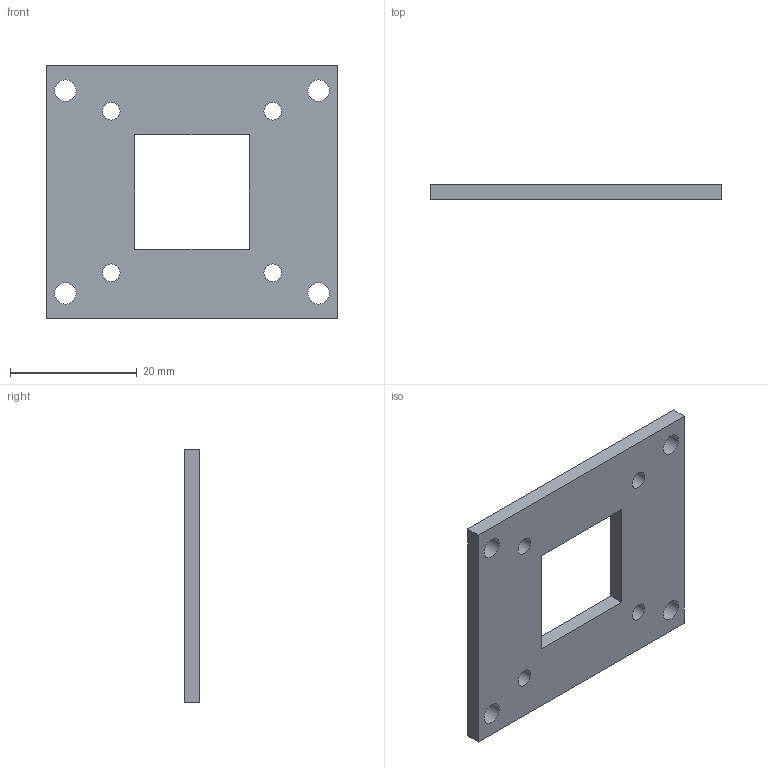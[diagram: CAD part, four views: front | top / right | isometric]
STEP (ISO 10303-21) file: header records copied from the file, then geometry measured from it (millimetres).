
FILE_DESCRIPTION(('Open CASCADE Model'),'2;1');
FILE_NAME('Open CASCADE Shape Model','2026-09-12T16:48:07',('Author'),( 'Open CASCADE'),'Open CASCADE STEP processor 7.9','Open CASCADE 7.9' ,'Unknown');
FILE_SCHEMA(('AUTOMOTIVE_DESIGN { 1 0 10303 214 1 1 1 1 }'));
Length unit declared in the file: millimetre
Products named in the file (1): Open CASCADE STEP translator 7.9 21
Bounding box: 46 x 2.4 x 40 mm (x, y, z)
Volume: 3492.1 mm3; surface area: 3682.7 mm2
Topology: 1 solids, 1 shells, 18 faces, 48 edges, 32 vertices
Faces by surface type: plane 10, cylinder 8
Full cylindrical faces by diameter (mm): 2.8 x4, 3.4 x4
Entity records: 1238 total; most frequent: DIRECTION 198, CARTESIAN_POINT 195, LINE 112, VECTOR 112, ORIENTED_EDGE 96, PCURVE 96, DEFINITIONAL_REPRESENTATION 96, EDGE_CURVE 48
